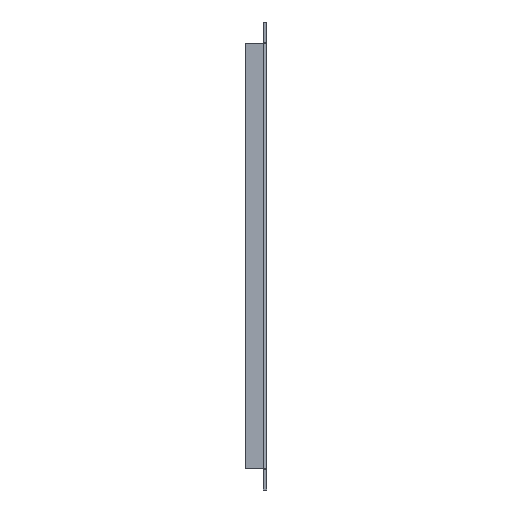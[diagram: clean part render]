
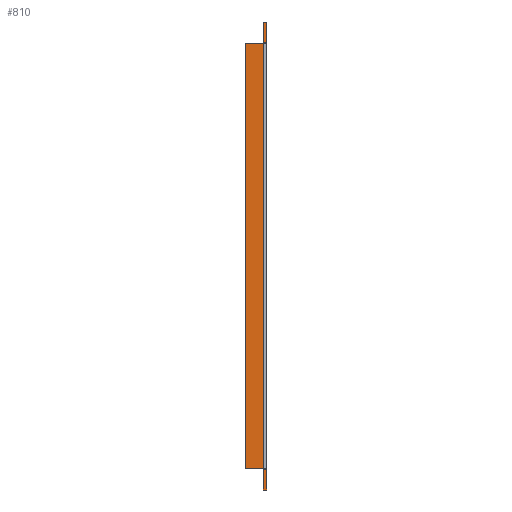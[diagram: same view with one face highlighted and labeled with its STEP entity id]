
A CAD part, front view. The second image highlights one B-rep face of the part: STEP entity #810.
In plain terms, the highlighted planar face has unit normal (0, -1, 0).
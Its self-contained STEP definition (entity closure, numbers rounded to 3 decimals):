
#775=AXIS2_PLACEMENT_3D('Plane Axis2P3D',#772,#773,#774) ;
#427=CARTESIAN_POINT('Vertex',(-1.5,0.,212.14)) ;
#430=CARTESIAN_POINT('Line Origine',(-1.5,0.,111.125)) ;
#434=CARTESIAN_POINT('Vertex',(-1.5,0.,10.11)) ;
#468=CARTESIAN_POINT('Vertex',(-0.103,0.,212.69)) ;
#472=CARTESIAN_POINT('Control Point',(-0.103,0.,212.69)) ;
#473=CARTESIAN_POINT('Control Point',(-0.433,0.,212.69)) ;
#474=CARTESIAN_POINT('Control Point',(-0.749,0.,212.574)) ;
#475=CARTESIAN_POINT('Control Point',(-1.006,0.,212.438)) ;
#476=CARTESIAN_POINT('Control Point',(-1.254,0.,212.289)) ;
#477=CARTESIAN_POINT('Control Point',(-1.5,0.,212.14)) ;
#490=CARTESIAN_POINT('Vertex',(0.,0.,212.69)) ;
#493=CARTESIAN_POINT('Line Origine',(-0.75,0.,212.69)) ;
#513=CARTESIAN_POINT('Vertex',(-1.575,0.,222.25)) ;
#516=CARTESIAN_POINT('Line Origine',(-0.787,0.,222.25)) ;
#520=CARTESIAN_POINT('Vertex',(0.,0.,222.25)) ;
#549=CARTESIAN_POINT('Line Origine',(-5.867,0.,10.16)) ;
#553=CARTESIAN_POINT('Vertex',(-1.575,0.,10.16)) ;
#555=CARTESIAN_POINT('Vertex',(-10.16,0.,10.16)) ;
#600=CARTESIAN_POINT('Vertex',(0.,0.,0.)) ;
#603=CARTESIAN_POINT('Line Origine',(-0.787,0.,0.)) ;
#607=CARTESIAN_POINT('Vertex',(-1.575,0.,0.)) ;
#629=CARTESIAN_POINT('Line Origine',(0.,0.,217.47)) ;
#657=CARTESIAN_POINT('Vertex',(0.,0.,9.56)) ;
#660=CARTESIAN_POINT('Line Origine',(0.,0.,4.78)) ;
#678=CARTESIAN_POINT('Line Origine',(-0.75,0.,9.56)) ;
#682=CARTESIAN_POINT('Vertex',(-0.103,0.,9.56)) ;
#703=CARTESIAN_POINT('Control Point',(-0.103,0.,9.56)) ;
#704=CARTESIAN_POINT('Control Point',(-0.433,0.,9.56)) ;
#705=CARTESIAN_POINT('Control Point',(-0.749,0.,9.676)) ;
#706=CARTESIAN_POINT('Control Point',(-1.006,0.,9.812)) ;
#707=CARTESIAN_POINT('Control Point',(-1.254,0.,9.961)) ;
#708=CARTESIAN_POINT('Control Point',(-1.5,0.,10.11)) ;
#757=CARTESIAN_POINT('Vertex',(-10.16,0.,212.09)) ;
#760=CARTESIAN_POINT('Line Origine',(-10.16,0.,111.125)) ;
#772=CARTESIAN_POINT('Axis2P3D Location',(-10.16,0.,0.)) ;
#777=CARTESIAN_POINT('Line Origine',(-1.575,0.,217.17)) ;
#781=CARTESIAN_POINT('Vertex',(-1.575,0.,212.09)) ;
#784=CARTESIAN_POINT('Line Origine',(-5.867,0.,212.09)) ;
#789=CARTESIAN_POINT('Line Origine',(-1.575,0.,5.08)) ;
#431=DIRECTION('Vector Direction',(0.,0.,-1.)) ;
#494=DIRECTION('Vector Direction',(1.,0.,0.)) ;
#517=DIRECTION('Vector Direction',(-1.,0.,0.)) ;
#550=DIRECTION('Vector Direction',(-1.,0.,0.)) ;
#604=DIRECTION('Vector Direction',(-1.,0.,0.)) ;
#630=DIRECTION('Vector Direction',(0.,0.,1.)) ;
#661=DIRECTION('Vector Direction',(0.,0.,1.)) ;
#679=DIRECTION('Vector Direction',(1.,0.,0.)) ;
#761=DIRECTION('Vector Direction',(0.,0.,1.)) ;
#773=DIRECTION('Axis2P3D Direction',(-0.,1.,0.)) ;
#774=DIRECTION('Axis2P3D XDirection',(1.,0.,0.)) ;
#778=DIRECTION('Vector Direction',(0.,0.,-1.)) ;
#785=DIRECTION('Vector Direction',(-1.,0.,0.)) ;
#790=DIRECTION('Vector Direction',(0.,0.,1.)) ;
#432=VECTOR('Line Direction',#431,1.) ;
#495=VECTOR('Line Direction',#494,1.) ;
#518=VECTOR('Line Direction',#517,1.) ;
#551=VECTOR('Line Direction',#550,1.) ;
#605=VECTOR('Line Direction',#604,1.) ;
#631=VECTOR('Line Direction',#630,1.) ;
#662=VECTOR('Line Direction',#661,1.) ;
#680=VECTOR('Line Direction',#679,1.) ;
#762=VECTOR('Line Direction',#761,1.) ;
#779=VECTOR('Line Direction',#778,1.) ;
#786=VECTOR('Line Direction',#785,1.) ;
#791=VECTOR('Line Direction',#790,1.) ;
#795=ORIENTED_EDGE('',*,*,#436,.F.) ;
#796=ORIENTED_EDGE('',*,*,#478,.T.) ;
#797=ORIENTED_EDGE('',*,*,#497,.T.) ;
#798=ORIENTED_EDGE('',*,*,#633,.T.) ;
#799=ORIENTED_EDGE('',*,*,#522,.T.) ;
#800=ORIENTED_EDGE('',*,*,#783,.T.) ;
#801=ORIENTED_EDGE('',*,*,#788,.T.) ;
#802=ORIENTED_EDGE('',*,*,#764,.F.) ;
#803=ORIENTED_EDGE('',*,*,#557,.F.) ;
#804=ORIENTED_EDGE('',*,*,#793,.F.) ;
#805=ORIENTED_EDGE('',*,*,#609,.F.) ;
#806=ORIENTED_EDGE('',*,*,#664,.T.) ;
#807=ORIENTED_EDGE('',*,*,#684,.F.) ;
#808=ORIENTED_EDGE('',*,*,#709,.T.) ;
#810=ADVANCED_FACE('PartBody',(#809),#776,.F.) ;
#471=B_SPLINE_CURVE_WITH_KNOTS('',5,(#472,#473,#474,#475,#476,#477),.UNSPECIFIED.,.F.,.U.,(6,6),(0.,2.336),.UNSPECIFIED.) ;
#702=B_SPLINE_CURVE_WITH_KNOTS('',5,(#703,#704,#705,#706,#707,#708),.UNSPECIFIED.,.F.,.U.,(6,6),(0.,2.336),.UNSPECIFIED.) ;
#436=EDGE_CURVE('',#428,#435,#433,.T.) ;
#478=EDGE_CURVE('',#428,#469,#471,.F.) ;
#497=EDGE_CURVE('',#469,#491,#496,.T.) ;
#522=EDGE_CURVE('',#521,#514,#519,.T.) ;
#557=EDGE_CURVE('',#554,#556,#552,.T.) ;
#609=EDGE_CURVE('',#601,#608,#606,.T.) ;
#633=EDGE_CURVE('',#491,#521,#632,.T.) ;
#664=EDGE_CURVE('',#601,#658,#663,.T.) ;
#684=EDGE_CURVE('',#683,#658,#681,.T.) ;
#709=EDGE_CURVE('',#683,#435,#702,.T.) ;
#764=EDGE_CURVE('',#556,#758,#763,.T.) ;
#783=EDGE_CURVE('',#514,#782,#780,.T.) ;
#788=EDGE_CURVE('',#782,#758,#787,.T.) ;
#793=EDGE_CURVE('',#608,#554,#792,.T.) ;
#794=EDGE_LOOP('',(#795,#796,#797,#798,#799,#800,#801,#802,#803,#804,#805,#806,#807,#808)) ;
#809=FACE_OUTER_BOUND('',#794,.T.) ;
#433=LINE('Line',#430,#432) ;
#496=LINE('Line',#493,#495) ;
#519=LINE('Line',#516,#518) ;
#552=LINE('Line',#549,#551) ;
#606=LINE('Line',#603,#605) ;
#632=LINE('Line',#629,#631) ;
#663=LINE('Line',#660,#662) ;
#681=LINE('Line',#678,#680) ;
#763=LINE('Line',#760,#762) ;
#780=LINE('Line',#777,#779) ;
#787=LINE('Line',#784,#786) ;
#792=LINE('Line',#789,#791) ;
#776=PLANE('Plane',#775) ;
#428=VERTEX_POINT('',#427) ;
#435=VERTEX_POINT('',#434) ;
#469=VERTEX_POINT('',#468) ;
#491=VERTEX_POINT('',#490) ;
#514=VERTEX_POINT('',#513) ;
#521=VERTEX_POINT('',#520) ;
#554=VERTEX_POINT('',#553) ;
#556=VERTEX_POINT('',#555) ;
#601=VERTEX_POINT('',#600) ;
#608=VERTEX_POINT('',#607) ;
#658=VERTEX_POINT('',#657) ;
#683=VERTEX_POINT('',#682) ;
#758=VERTEX_POINT('',#757) ;
#782=VERTEX_POINT('',#781) ;
